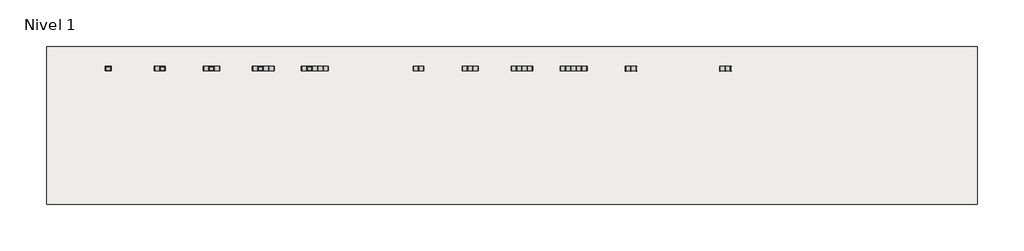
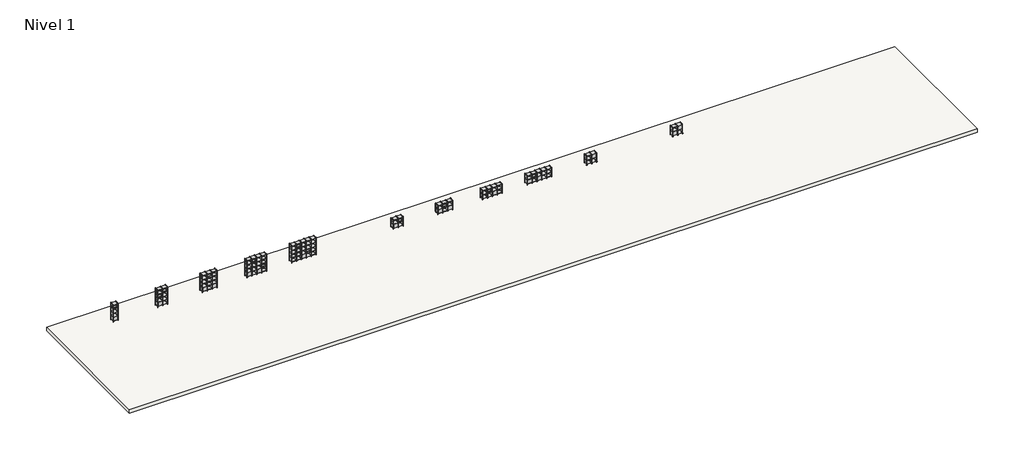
# One storey, incomplete: 31 furniture elements, 1 slab.
"""IFC4 building model written with IfcOpenShell, lengths in millimetres."""

from ifc_helpers import new_model, si_unit, frame, origin, place, context, project, spatial, polyline, outline, extrude, transform, mapped, element, save
from components import furniture_fd0f974a, furniture_5e8a3873, furniture_414cf7f5, furniture_12945c2e, furniture_0d751dc1, furniture_b87f857e, furniture_e37a2ed3, furniture_83918df8, tb1221_6da47cf3, tb1221_f5202c44, tb1222_59ea8ce8, tb1242_8765e396, tb1411_903efa47, tb1421_a1fe68c5, tb1432_73eb9000, tb1442_28bb5b23, tb1452_b777df18

model = new_model("IFC4")

# Units and contexts
model_context = context("Model", 3, world=origin())
ifc_project = project(units=[si_unit("LENGTHUNIT", "METRE", prefix="MILLI")], contexts=[model_context])

# Site, building, storey
site = spatial("IfcSite", under=ifc_project)
building = spatial("IfcBuilding", under=site)
storey = spatial("IfcBuildingStorey", under=building, Name="Nivel 1", Elevation=0.0)

# Furniture
placement = place(None, origin())
furniture_shape = furniture_fd0f974a(model_context)
element("IfcFurniture", 1, ObjectType="Tubbe Bookcase_Intermediate Unit_4x1 : Tubbe Bookcase_Intermediate Unit_4x1_4x2", at=placement, inside=storey, context=model_context, shape_type="MappedRepresentation", body=[
    mapped(furniture_shape, transform((-6990.7572422, 7369.3741709, 0.0), x_axis=(1.0, 0.0, 0.0), y_axis=(0.0, 1.0, 0.0), z_axis=(0.0, 0.0, 1.0))),
])
element("IfcFurniture", 2, ObjectType="Tubbe Bookcase_Intermediate Unit_4x1 : Tubbe Bookcase_Intermediate Unit_4x1_4x2", at=placement, inside=storey, context=model_context, shape_type="MappedRepresentation", body=[
    mapped(furniture_shape, transform((-3200.6772048, 7369.3741709, 0.0), x_axis=(1.0, 0.0, 0.0), y_axis=(0.0, 1.0, 0.0), z_axis=(0.0, 0.0, 1.0))),
])
element("IfcFurniture", 3, ObjectType="Tubbe Bookcase_Intermediate Unit_4x1 : Tubbe Bookcase_Intermediate Unit_4x1_4x2", at=placement, inside=storey, context=model_context, shape_type="MappedRepresentation", body=[
    mapped(furniture_shape, transform((589.4028326, 7369.3741709, 0.0), x_axis=(1.0, 0.0, 0.0), y_axis=(0.0, 1.0, 0.0), z_axis=(0.0, 0.0, 1.0))),
])
element("IfcFurniture", 4, ObjectType="Tubbe Bookcase_Intermediate Unit_4x1 : Tubbe Bookcase_Intermediate Unit_4x1_4x2", at=placement, inside=storey, context=model_context, shape_type="MappedRepresentation", body=[
    mapped(furniture_shape, transform((4379.48287, 7369.3741709, 0.0), x_axis=(1.0, 0.0, 0.0), y_axis=(0.0, 1.0, 0.0), z_axis=(0.0, 0.0, 1.0))),
])
furniture_2_shape = furniture_5e8a3873(model_context)
element("IfcFurniture", 5, ObjectType="Tubbe Bookcase_Intermediate Unit_4x1 : Tubbe Bookcase_Intermediate Unit_4x1_4x3", at=placement, inside=storey, context=model_context, shape_type="MappedRepresentation", body=[
    mapped(furniture_2_shape, transform((-2786.6772048, 7369.3741709, 0.0), x_axis=(1.0, 0.0, 0.0), y_axis=(0.0, 1.0, 0.0), z_axis=(0.0, 0.0, 1.0))),
])
element("IfcFurniture", 6, ObjectType="Tubbe Bookcase_Intermediate Unit_4x1 : Tubbe Bookcase_Intermediate Unit_4x1_4x3", at=placement, inside=storey, context=model_context, shape_type="MappedRepresentation", body=[
    mapped(furniture_2_shape, transform((1003.4028326, 7369.3741709, 0.0), x_axis=(1.0, 0.0, 0.0), y_axis=(0.0, 1.0, 0.0), z_axis=(0.0, 0.0, 1.0))),
])
element("IfcFurniture", 7, ObjectType="Tubbe Bookcase_Intermediate Unit_4x1 : Tubbe Bookcase_Intermediate Unit_4x1_4x3", at=placement, inside=storey, context=model_context, shape_type="MappedRepresentation", body=[
    mapped(furniture_2_shape, transform((4793.48287, 7369.3741709, 0.0), x_axis=(1.0, 0.0, 0.0), y_axis=(0.0, 1.0, 0.0), z_axis=(0.0, 0.0, 1.0))),
])
furniture_3_shape = furniture_414cf7f5(model_context)
element("IfcFurniture", 8, ObjectType="Tubbe Bookcase_Intermediate Unit_4x1 : Tubbe Bookcase_Intermediate Unit_4x1_4x4", at=placement, inside=storey, context=model_context, shape_type="MappedRepresentation", body=[
    mapped(furniture_3_shape, transform((1417.4028326, 7369.3741709, 0.0), x_axis=(1.0, 0.0, 0.0), y_axis=(0.0, 1.0, 0.0), z_axis=(0.0, 0.0, 1.0))),
])
element("IfcFurniture", 9, ObjectType="Tubbe Bookcase_Intermediate Unit_4x1 : Tubbe Bookcase_Intermediate Unit_4x1_4x4", at=placement, inside=storey, context=model_context, shape_type="MappedRepresentation", body=[
    mapped(furniture_3_shape, transform((5207.48287, 7369.3741709, 0.0), x_axis=(1.0, 0.0, 0.0), y_axis=(0.0, 1.0, 0.0), z_axis=(0.0, 0.0, 1.0))),
])
furniture_4_shape = furniture_12945c2e(model_context)
element("IfcFurniture", 10, ObjectType="Tubbe Bookcase_Intermediate Unit_4x1 : Tubbe Bookcase_Intermediate Unit_4x1_4x5", at=placement, inside=storey, context=model_context, shape_type="MappedRepresentation", body=[
    mapped(furniture_4_shape, transform((5621.48287, 7369.3741709, 0.0), x_axis=(1.0, 0.0, 0.0), y_axis=(0.0, 1.0, 0.0), z_axis=(0.0, 0.0, 1.0))),
])
furniture_5_shape = furniture_0d751dc1(model_context)
element("IfcFurniture", 11, ObjectType="Tubbe Bookcase_Intermediate Unit_2x1 : Tubbe Bookcase_Intermediate Unit_2x1_2x2", at=placement, inside=storey, context=model_context, shape_type="MappedRepresentation", body=[
    mapped(furniture_5_shape, transform((13009.2427578, 7369.3741709, 0.0), x_axis=(1.0, 0.0, 0.0), y_axis=(0.0, 1.0, 0.0), z_axis=(0.0, 0.0, 1.0))),
])
element("IfcFurniture", 12, ObjectType="Tubbe Bookcase_Intermediate Unit_2x1 : Tubbe Bookcase_Intermediate Unit_2x1_2x2", at=placement, inside=storey, context=model_context, shape_type="MappedRepresentation", body=[
    mapped(furniture_5_shape, transform((16799.3227952, 7369.3741709, 0.0), x_axis=(1.0, 0.0, 0.0), y_axis=(0.0, 1.0, 0.0), z_axis=(0.0, 0.0, 1.0))),
])
element("IfcFurniture", 13, ObjectType="Tubbe Bookcase_Intermediate Unit_2x1 : Tubbe Bookcase_Intermediate Unit_2x1_2x2", at=placement, inside=storey, context=model_context, shape_type="MappedRepresentation", body=[
    mapped(furniture_5_shape, transform((20589.4028326, 7369.3741709, 0.0), x_axis=(1.0, 0.0, 0.0), y_axis=(0.0, 1.0, 0.0), z_axis=(0.0, 0.0, 1.0))),
])
element("IfcFurniture", 14, ObjectType="Tubbe Bookcase_Intermediate Unit_2x1 : Tubbe Bookcase_Intermediate Unit_2x1_2x2", at=placement, inside=storey, context=model_context, shape_type="MappedRepresentation", body=[
    mapped(furniture_5_shape, transform((24379.48287, 7369.3741709, 0.0), x_axis=(1.0, 0.0, 0.0), y_axis=(0.0, 1.0, 0.0), z_axis=(0.0, 0.0, 1.0))),
])
furniture_6_shape = furniture_b87f857e(model_context)
element("IfcFurniture", 15, ObjectType="Tubbe Bookcase_Intermediate Unit_2x1 : Tubbe Bookcase_Intermediate Unit_2x1_3x2", at=placement, inside=storey, context=model_context, shape_type="MappedRepresentation", body=[
    mapped(furniture_6_shape, transform((17213.3227952, 7369.3741709, 0.0), x_axis=(1.0, 0.0, 0.0), y_axis=(0.0, 1.0, 0.0), z_axis=(0.0, 0.0, 1.0))),
])
element("IfcFurniture", 16, ObjectType="Tubbe Bookcase_Intermediate Unit_2x1 : Tubbe Bookcase_Intermediate Unit_2x1_3x2", at=placement, inside=storey, context=model_context, shape_type="MappedRepresentation", body=[
    mapped(furniture_6_shape, transform((21003.4028326, 7369.3741709, 0.0), x_axis=(1.0, 0.0, 0.0), y_axis=(0.0, 1.0, 0.0), z_axis=(0.0, 0.0, 1.0))),
])
element("IfcFurniture", 17, ObjectType="Tubbe Bookcase_Intermediate Unit_2x1 : Tubbe Bookcase_Intermediate Unit_2x1_3x2", at=placement, inside=storey, context=model_context, shape_type="MappedRepresentation", body=[
    mapped(furniture_6_shape, transform((24793.48287, 7369.3741709, 0.0), x_axis=(1.0, 0.0, 0.0), y_axis=(0.0, 1.0, 0.0), z_axis=(0.0, 0.0, 1.0))),
])
furniture_7_shape = furniture_e37a2ed3(model_context)
element("IfcFurniture", 18, ObjectType="Tubbe Bookcase_Intermediate Unit_2x1 : Tubbe Bookcase_Intermediate Unit_2x1_4x2", at=placement, inside=storey, context=model_context, shape_type="MappedRepresentation", body=[
    mapped(furniture_7_shape, transform((21417.4028326, 7369.3741709, 0.0), x_axis=(1.0, 0.0, 0.0), y_axis=(0.0, 1.0, 0.0), z_axis=(0.0, 0.0, 1.0))),
])
element("IfcFurniture", 19, ObjectType="Tubbe Bookcase_Intermediate Unit_2x1 : Tubbe Bookcase_Intermediate Unit_2x1_4x2", at=placement, inside=storey, context=model_context, shape_type="MappedRepresentation", body=[
    mapped(furniture_7_shape, transform((25207.48287, 7369.3741709, 0.0), x_axis=(1.0, 0.0, 0.0), y_axis=(0.0, 1.0, 0.0), z_axis=(0.0, 0.0, 1.0))),
])
furniture_8_shape = furniture_83918df8(model_context)
element("IfcFurniture", 20, ObjectType="Tubbe Bookcase_Intermediate Unit_2x1 : Tubbe Bookcase_Intermediate Unit_2x1_5x2", at=placement, inside=storey, context=model_context, shape_type="MappedRepresentation", body=[
    mapped(furniture_8_shape, transform((25621.48287, 7369.3741709, 0.0), x_axis=(1.0, 0.0, 0.0), y_axis=(0.0, 1.0, 0.0), z_axis=(0.0, 0.0, 1.0))),
])
tb1221_shape = tb1221_6da47cf3(model_context)
element("IfcFurniture", 21, ObjectType="Tubbe Bookcase_2x1 : TB1221", at=placement, inside=storey, context=model_context, shape_type="MappedRepresentation", body=[
    mapped(tb1221_shape, transform((12595.2427578, 7369.3741709, 0.0), x_axis=(1.0, 0.0, 0.0), y_axis=(0.0, 1.0, 0.0), z_axis=(0.0, 0.0, 1.0))),
])
tb1221_2_shape = tb1221_f5202c44(model_context)
element("IfcFurniture", 22, ObjectType="Tubbe Bookcase_Mobile Modular Bookcase : TB1221", at=placement, inside=storey, context=model_context, shape_type="MappedRepresentation", body=[
    mapped(tb1221_2_shape, transform((29220.3180225, 7369.3741709, 0.0), x_axis=(1.0, 0.0, 0.0), y_axis=(0.0, 1.0, 0.0), z_axis=(0.0, 0.0, 1.0))),
])
tb1222_shape = tb1222_59ea8ce8(model_context)
element("IfcFurniture", 23, ObjectType="Tubbe Bookcase_Mobile Modular Bookcase : TB1222", at=placement, inside=storey, context=model_context, shape_type="MappedRepresentation", body=[
    mapped(tb1222_shape, transform((36520.3180225, 7369.3741709, 0.0), x_axis=(1.0, 0.0, 0.0), y_axis=(0.0, 1.0, 0.0), z_axis=(0.0, 0.0, 1.0))),
])
element("IfcFurniture", 24, ObjectType="Tubbe Bookcase_2x1 : TB1232", at=placement, inside=storey, context=model_context, shape_type="MappedRepresentation", body=[
    mapped(tb1221_shape, transform((16385.3227952, 7369.3741709, 0.0), x_axis=(1.0, 0.0, 0.0), y_axis=(0.0, 1.0, 0.0), z_axis=(0.0, 0.0, 1.0))),
])
tb1242_shape = tb1242_8765e396(model_context)
element("IfcFurniture", 25, ObjectType="Tubbe Bookcase_2x1 : TB1242", at=placement, inside=storey, context=model_context, shape_type="MappedRepresentation", body=[
    mapped(tb1242_shape, transform((20175.4028326, 7369.3741709, 0.0), x_axis=(1.0, 0.0, 0.0), y_axis=(0.0, 1.0, 0.0), z_axis=(0.0, 0.0, 1.0))),
])
element("IfcFurniture", 26, ObjectType="Tubbe Bookcase_2x1 : TB1252", at=placement, inside=storey, context=model_context, shape_type="MappedRepresentation", body=[
    mapped(tb1221_shape, transform((23965.48287, 7369.3741709, 0.0), x_axis=(1.0, 0.0, 0.0), y_axis=(0.0, 1.0, 0.0), z_axis=(0.0, 0.0, 1.0))),
])
tb1411_shape = tb1411_903efa47(model_context)
element("IfcFurniture", 27, ObjectType="Tubbe Bookcase_4x1 : TB1411", at=placement, inside=storey, context=model_context, shape_type="MappedRepresentation", body=[
    mapped(tb1411_shape, transform((-11194.947557, 7369.3741709, 0.0), x_axis=(1.0, 0.0, 0.0), y_axis=(0.0, 1.0, 0.0), z_axis=(0.0, 0.0, 1.0))),
])
tb1421_shape = tb1421_a1fe68c5(model_context)
element("IfcFurniture", 28, ObjectType="Tubbe Bookcase_4x1 : TB1421", at=placement, inside=storey, context=model_context, shape_type="MappedRepresentation", body=[
    mapped(tb1421_shape, transform((-7404.7572422, 7369.3741709, 0.0), x_axis=(1.0, 0.0, 0.0), y_axis=(0.0, 1.0, 0.0), z_axis=(0.0, 0.0, 1.0))),
])
tb1432_shape = tb1432_73eb9000(model_context)
element("IfcFurniture", 29, ObjectType="Tubbe Bookcase_4x1 : TB1432", at=placement, inside=storey, context=model_context, shape_type="MappedRepresentation", body=[
    mapped(tb1432_shape, transform((-3614.6772048, 7369.3741709, 0.0), x_axis=(1.0, 0.0, 0.0), y_axis=(0.0, 1.0, 0.0), z_axis=(0.0, 0.0, 1.0))),
])
tb1442_shape = tb1442_28bb5b23(model_context)
element("IfcFurniture", 30, ObjectType="Tubbe Bookcase_4x1 : TB1442", at=placement, inside=storey, context=model_context, shape_type="MappedRepresentation", body=[
    mapped(tb1442_shape, transform((175.4028326, 7369.3741709, 0.0), x_axis=(1.0, 0.0, 0.0), y_axis=(0.0, 1.0, 0.0), z_axis=(0.0, 0.0, 1.0))),
])
tb1452_shape = tb1452_b777df18(model_context)
element("IfcFurniture", 31, ObjectType="Tubbe Bookcase_4x1 : TB1452", at=placement, inside=storey, context=model_context, shape_type="MappedRepresentation", body=[
    mapped(tb1452_shape, transform((3965.48287, 7369.3741709, 0.0), x_axis=(1.0, 0.0, 0.0), y_axis=(0.0, 1.0, 0.0), z_axis=(0.0, 0.0, 1.0))),
])

# Slab
element("IfcSlab", 32, ObjectType="Por defecto - 30 cm", at=placement, inside=storey, context=model_context, shape_type="SweptSolid", body=[
    extrude(outline(polyline([(56031.8579118, 9079.2669701), (56031.8579118, -3120.7330299), (-15968.1420882, -3120.7330299), (-15968.1420882, 9079.2669701), (56031.8579118, 9079.2669701)])), frame((0.0, 0.0, -300.0), z_axis=(0.0, 0.0, 1.0), x_axis=(1.0, 0.0, 0.0)), (0.0, 0.0, 1.0), 300.0),
])

save(model, "model.ifc")
